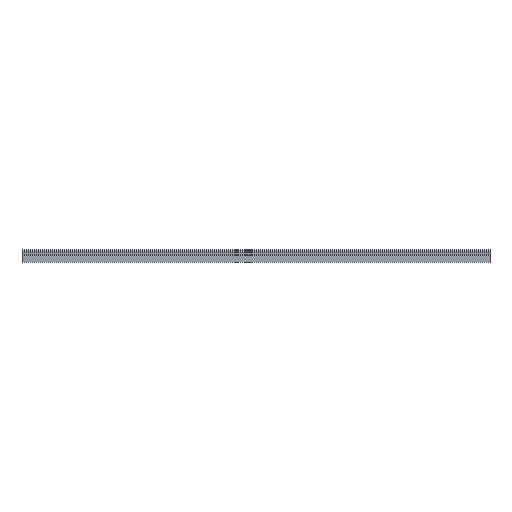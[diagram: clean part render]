
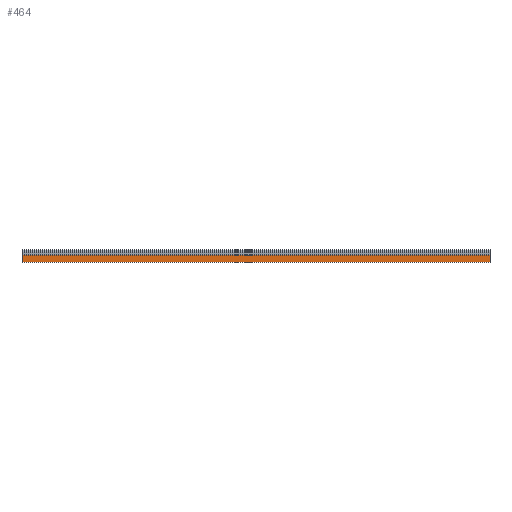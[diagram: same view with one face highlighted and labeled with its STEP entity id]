
A CAD part, front view. The second image highlights one B-rep face of the part: STEP entity #464.
In plain terms, the highlighted planar face has unit normal (0, -1, 0).
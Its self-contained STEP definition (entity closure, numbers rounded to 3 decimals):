
#20 = VERTEX_POINT ( 'NONE', #623 ) ;
#52 = DIRECTION ( 'NONE',  ( 0., 0., 1. ) ) ;
#171 = LINE ( 'NONE', #487, #1435 ) ;
#213 = EDGE_CURVE ( 'NONE', #1348, #1426, #171, .T. ) ;
#241 = EDGE_CURVE ( 'NONE', #20, #1426, #282, .T. ) ;
#282 = LINE ( 'NONE', #1325, #1456 ) ;
#437 = DIRECTION ( 'NONE',  ( 0., 1., 0. ) ) ;
#464 = ADVANCED_FACE ( 'NONE', ( #1268 ), #852, .F. ) ;
#487 = CARTESIAN_POINT ( 'NONE',  ( 0., 7.1, -6.8 ) ) ;
#584 = LINE ( 'NONE', #1477, #816 ) ;
#623 = CARTESIAN_POINT ( 'NONE',  ( 1000., 7.1, -22. ) ) ;
#814 = EDGE_CURVE ( 'NONE', #876, #1348, #584, .T. ) ;
#816 = VECTOR ( 'NONE', #1363, 1000. ) ;
#820 = VECTOR ( 'NONE', #1074, 1000. ) ;
#839 = EDGE_LOOP ( 'NONE', ( #1505, #1462, #1484, #1172 ) ) ;
#852 = PLANE ( 'NONE',  #904 ) ;
#876 = VERTEX_POINT ( 'NONE', #993 ) ;
#904 = AXIS2_PLACEMENT_3D ( 'NONE', #977, #437, #52 ) ;
#934 = EDGE_CURVE ( 'NONE', #876, #20, #1353, .T. ) ;
#977 = CARTESIAN_POINT ( 'NONE',  ( 1000., 7.1, -6.8 ) ) ;
#993 = CARTESIAN_POINT ( 'NONE',  ( 1000., 7.1, -6.8 ) ) ;
#1074 = DIRECTION ( 'NONE',  ( 0., 0., -1. ) ) ;
#1078 = CARTESIAN_POINT ( 'NONE',  ( 1000., 7.1, -6.8 ) ) ;
#1172 = ORIENTED_EDGE ( 'NONE', *, *, #814, .T. ) ;
#1203 = DIRECTION ( 'NONE',  ( -1., 0., 0. ) ) ;
#1268 = FACE_OUTER_BOUND ( 'NONE', #839, .T. ) ;
#1325 = CARTESIAN_POINT ( 'NONE',  ( 1000., 7.1, -22. ) ) ;
#1348 = VERTEX_POINT ( 'NONE', #1451 ) ;
#1353 = LINE ( 'NONE', #1078, #820 ) ;
#1363 = DIRECTION ( 'NONE',  ( -1., 0., 0. ) ) ;
#1369 = CARTESIAN_POINT ( 'NONE',  ( 0., 7.1, -22. ) ) ;
#1426 = VERTEX_POINT ( 'NONE', #1369 ) ;
#1435 = VECTOR ( 'NONE', #1485, 1000. ) ;
#1451 = CARTESIAN_POINT ( 'NONE',  ( 0., 7.1, -6.8 ) ) ;
#1456 = VECTOR ( 'NONE', #1203, 1000. ) ;
#1462 = ORIENTED_EDGE ( 'NONE', *, *, #241, .F. ) ;
#1477 = CARTESIAN_POINT ( 'NONE',  ( 1000., 7.1, -6.8 ) ) ;
#1484 = ORIENTED_EDGE ( 'NONE', *, *, #934, .F. ) ;
#1485 = DIRECTION ( 'NONE',  ( 0., 0., -1. ) ) ;
#1505 = ORIENTED_EDGE ( 'NONE', *, *, #213, .T. ) ;
